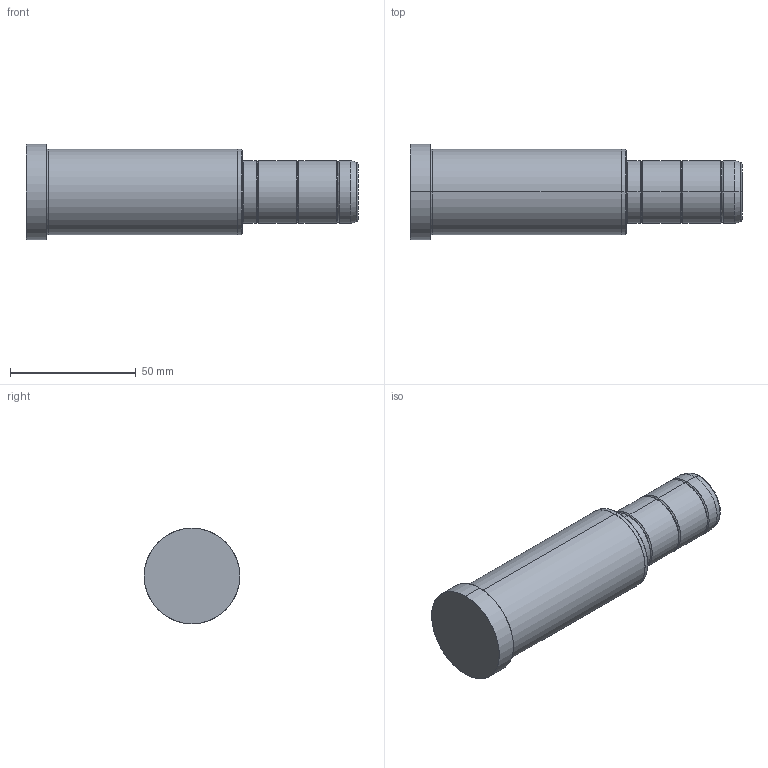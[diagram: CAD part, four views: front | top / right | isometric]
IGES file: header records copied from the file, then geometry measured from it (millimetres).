
Start section: SolidWorks IGES file using analytic representation for surfaces
Global section: file name: C:\Documents and Settings\kalite-mail\Desktop\IGS\D02\25\D02 - 25x86x46.IGS; native system: SolidWorks 2008; preprocessor: SolidWorks 2008; author: kalite-mail; date: 080617.084024; units: millimetre
Bounding box: 132 x 38 x 38 mm (x, y, z)
Surface area: 15173.7 mm2 (no closed solid volume)
Topology: 0 solids, 0 shells, 42 faces, 720 edges, 720 vertices
Faces by surface type: bspline 22, revolution 20
